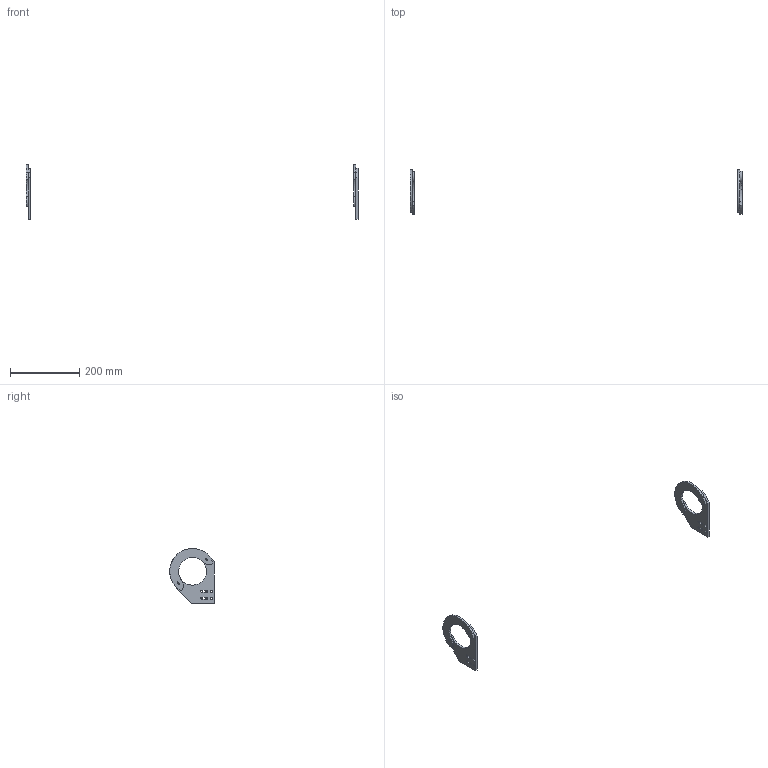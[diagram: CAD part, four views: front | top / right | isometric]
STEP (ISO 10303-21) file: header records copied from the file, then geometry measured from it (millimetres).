
FILE_DESCRIPTION(/* description */ (''),/* implementation_level */ '2;1');
FILE_NAME(/* name */ 'OPCADC~1',/* time_stamp */ '2014-02-14T19:49:57+01:00',/* author */ (''),/* organization */ (''),/* preprocessor_version */ 'ST-DEVELOPER v14',/* originating_system */ '',/* authorisation */ '');
FILE_SCHEMA (('AUTOMOTIVE_DESIGN'));
Length unit declared in the file: millimetre
Products named in the file (1): Document
Bounding box: 962 x 128.98 x 158.92 mm (x, y, z)
Volume: 152581.6 mm3; surface area: 65117.1 mm2
Topology: 4 solids, 4 shells, 110 faces, 306 edges, 204 vertices
Faces by surface type: bspline 70, plane 40
Entity records: 7287 total; most frequent: CARTESIAN_POINT 3454, ORIENTED_EDGE 612, PCURVE 612, DEFINITIONAL_REPRESENTATION 612, B_SPLINE_CURVE_WITH_KNOTS 568, SURFACE_CURVE 306, EDGE_CURVE 306, VERTEX_POINT 204
